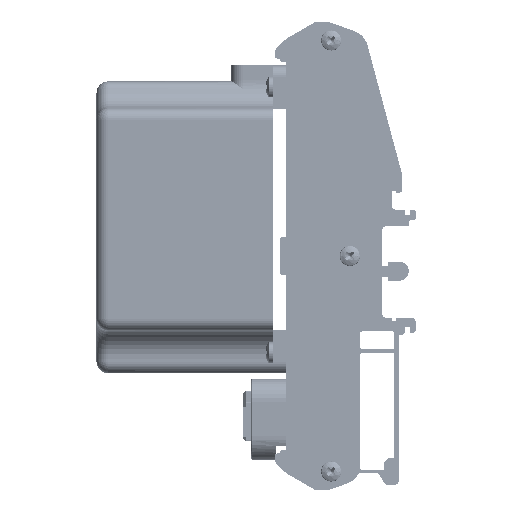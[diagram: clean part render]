
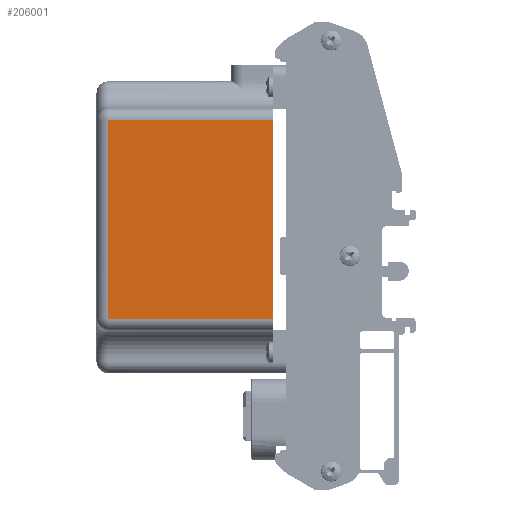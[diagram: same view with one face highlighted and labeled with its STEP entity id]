
A CAD part, left-side view. The second image highlights one B-rep face of the part: STEP entity #206001.
In plain terms, the highlighted planar face has unit normal (-1, 0, 0).
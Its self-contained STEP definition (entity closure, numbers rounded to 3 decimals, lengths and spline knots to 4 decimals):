
#29621=DIRECTION('',(0.,0.,-1.));
#29622=VECTOR('',#29621,2.1);
#29623=CARTESIAN_POINT('',(-3.805,1.937,1.437));
#29624=LINE('',#29623,#29622);
#29669=DIRECTION('',(0.,0.,1.));
#29670=VECTOR('',#29669,2.1);
#29671=CARTESIAN_POINT('',(-3.805,0.201,-0.663));
#29672=LINE('',#29671,#29670);
#29717=DIRECTION('',(0.,-1.,0.));
#29718=VECTOR('',#29717,1.736);
#29719=CARTESIAN_POINT('',(-3.805,1.937,-0.663));
#29720=LINE('',#29719,#29718);
#29980=DIRECTION('',(0.,1.,0.));
#29981=VECTOR('',#29980,1.736);
#29982=CARTESIAN_POINT('',(-3.805,0.201,1.437));
#29983=LINE('',#29982,#29981);
#143172=CARTESIAN_POINT('',(-3.805,1.937,1.437));
#143173=CARTESIAN_POINT('',(-3.805,1.937,-0.663));
#143174=VERTEX_POINT('',#143172);
#143175=VERTEX_POINT('',#143173);
#143216=CARTESIAN_POINT('',(-3.805,0.201,-0.663));
#143217=CARTESIAN_POINT('',(-3.805,0.201,1.437));
#143218=VERTEX_POINT('',#143216);
#143219=VERTEX_POINT('',#143217);
#205988=CARTESIAN_POINT('',(-3.805,2.062,0.387));
#205989=DIRECTION('',(-1.,0.,0.));
#205990=DIRECTION('',(0.,0.,1.));
#205991=AXIS2_PLACEMENT_3D('',#205988,#205989,#205990);
#205992=PLANE('',#205991);
#205993=ORIENTED_EDGE('',*,*,#205478,.F.);
#205995=ORIENTED_EDGE('',*,*,#205994,.F.);
#205996=ORIENTED_EDGE('',*,*,#205979,.F.);
#205998=ORIENTED_EDGE('',*,*,#205997,.F.);
#205999=EDGE_LOOP('',(#205993,#205995,#205996,#205998));
#206000=FACE_OUTER_BOUND('',#205999,.F.);
#206001=ADVANCED_FACE('',(#206000),#205992,.T.);
#205478=EDGE_CURVE('',#143218,#143219,#29672,.T.);
#205979=EDGE_CURVE('',#143174,#143175,#29624,.T.);
#205994=EDGE_CURVE('',#143175,#143218,#29720,.T.);
#205997=EDGE_CURVE('',#143219,#143174,#29983,.T.);
